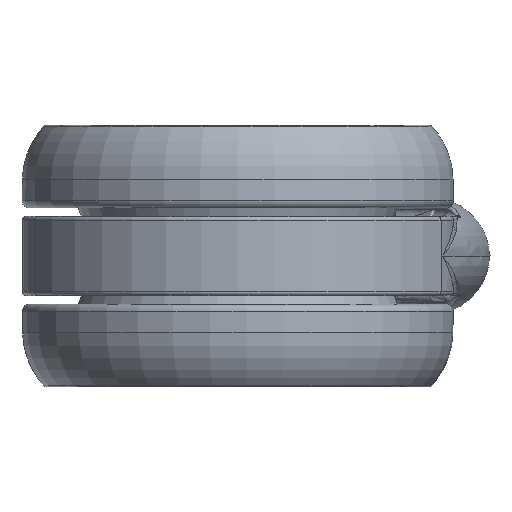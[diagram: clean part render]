
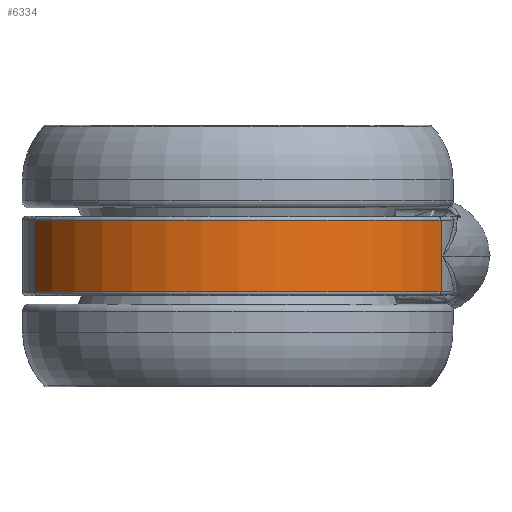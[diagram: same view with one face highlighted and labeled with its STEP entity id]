
A CAD part, front view. The second image highlights one B-rep face of the part: STEP entity #6334.
In plain terms, the highlighted cylindrical face has radius 30.924 mm (diameter 61.847 mm), a partial arc.
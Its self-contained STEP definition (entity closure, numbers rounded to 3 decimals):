
#618 = DIRECTION ( 'NONE',  ( 0., 0., -1. ) ) ;
#1065 = DIRECTION ( 'NONE',  ( 0., 0., 1. ) ) ;
#1571 = DIRECTION ( 'NONE',  ( 0., 0., -1. ) ) ;
#1651 = FACE_OUTER_BOUND ( 'NONE', #12360, .T. ) ;
#1724 = CYLINDRICAL_SURFACE ( 'NONE', #8279, 30.924 ) ;
#2162 = LINE ( 'NONE', #11785, #12364 ) ;
#2487 = DIRECTION ( 'NONE',  ( 0., 0., 1. ) ) ;
#2494 = VERTEX_POINT ( 'NONE', #14442 ) ;
#2971 = CARTESIAN_POINT ( 'NONE',  ( 0., 3.924, 12.5 ) ) ;
#4514 = AXIS2_PLACEMENT_3D ( 'NONE', #11580, #618, #10405 ) ;
#4530 = LINE ( 'NONE', #13055, #11564 ) ;
#5362 = EDGE_CURVE ( 'NONE', #9292, #11099, #4530, .T. ) ;
#5757 = CARTESIAN_POINT ( 'NONE',  ( 28.273, -8.602, -5. ) ) ;
#6045 = DIRECTION ( 'NONE',  ( -1., 0., 0. ) ) ;
#6086 = CIRCLE ( 'NONE', #4514, 30.924 ) ;
#6334 = ADVANCED_FACE ( 'NONE', ( #1651 ), #1724, .T. ) ;
#6601 = EDGE_CURVE ( 'NONE', #11099, #11749, #15114, .T. ) ;
#7872 = CARTESIAN_POINT ( 'NONE',  ( -28.273, -8.602, -5. ) ) ;
#7975 = ORIENTED_EDGE ( 'NONE', *, *, #8797, .T. ) ;
#8279 = AXIS2_PLACEMENT_3D ( 'NONE', #2971, #11432, #13636 ) ;
#8797 = EDGE_CURVE ( 'NONE', #2494, #9292, #6086, .T. ) ;
#9266 = EDGE_CURVE ( 'NONE', #11749, #2494, #2162, .T. ) ;
#9292 = VERTEX_POINT ( 'NONE', #13042 ) ;
#9573 = AXIS2_PLACEMENT_3D ( 'NONE', #15436, #2487, #6045 ) ;
#10405 = DIRECTION ( 'NONE',  ( 1., 0., 0. ) ) ;
#10484 = ORIENTED_EDGE ( 'NONE', *, *, #6601, .T. ) ;
#11099 = VERTEX_POINT ( 'NONE', #7872 ) ;
#11432 = DIRECTION ( 'NONE',  ( 0., 0., -1. ) ) ;
#11564 = VECTOR ( 'NONE', #1571, 1000. ) ;
#11580 = CARTESIAN_POINT ( 'NONE',  ( 0., 3.924, 5. ) ) ;
#11749 = VERTEX_POINT ( 'NONE', #5757 ) ;
#11785 = CARTESIAN_POINT ( 'NONE',  ( 28.273, -8.602, 12.5 ) ) ;
#12360 = EDGE_LOOP ( 'NONE', ( #15145, #10484, #14951, #7975 ) ) ;
#12364 = VECTOR ( 'NONE', #1065, 1000. ) ;
#13042 = CARTESIAN_POINT ( 'NONE',  ( -28.273, -8.602, 5. ) ) ;
#13055 = CARTESIAN_POINT ( 'NONE',  ( -28.273, -8.602, 12.5 ) ) ;
#13636 = DIRECTION ( 'NONE',  ( -1., 0., 0. ) ) ;
#14442 = CARTESIAN_POINT ( 'NONE',  ( 28.273, -8.602, 5. ) ) ;
#14951 = ORIENTED_EDGE ( 'NONE', *, *, #9266, .T. ) ;
#15114 = CIRCLE ( 'NONE', #9573, 30.924 ) ;
#15145 = ORIENTED_EDGE ( 'NONE', *, *, #5362, .T. ) ;
#15436 = CARTESIAN_POINT ( 'NONE',  ( 0., 3.924, -5. ) ) ;
